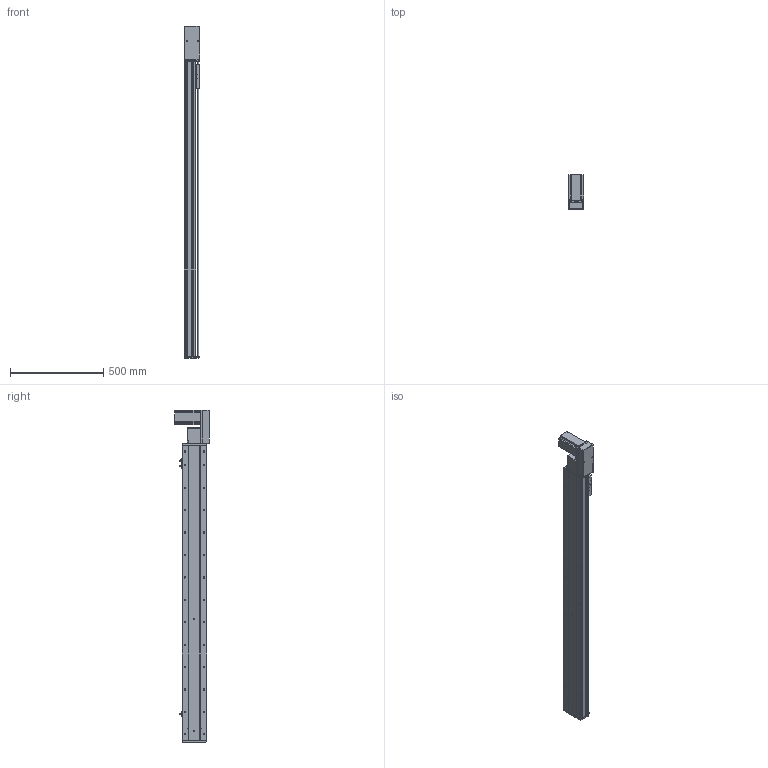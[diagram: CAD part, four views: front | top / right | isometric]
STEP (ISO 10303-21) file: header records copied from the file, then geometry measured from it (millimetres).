
FILE_DESCRIPTION (( 'STEP AP214' ), '1' );
FILE_NAME ('KSD130B-S1350-MLB-CM.STEP', '2019-11-14T03:01:31', ( '微软用户' ), ( '微软中国' ), 'SwSTEP 2.0', 'SolidWorks 2014', '' );
FILE_SCHEMA (( 'AUTOMOTIVE_DESIGN' ));
Length unit declared in the file: millimetre
Products named in the file (12): 台达ECMA－C20807AS伺服电机; 130宽模组保护罩上下左右折-同步带; 130宽模组马达安装板连板左右折同步带; 覜茼え100遵圉猾敕; U倰嫖萇EEㄜSX672; 130宽盖板半封闭同步带-1350行程; 130宽马达安装板同步带左-改; 130宽马达安装板同步带半封闭; 130宽同步带安装座半封闭; 130宽端盖同步带半封闭; 130宽底板半封闭同步带-1350行程; KSD130B-S1350-MLB-CM
Assembly tree (13 placements, depth 2):
  KSD130B-S1350-MLB-CM
    130宽底板半封闭同步带-1350行程
    130宽端盖同步带半封闭
    130宽同步带安装座半封闭
    130宽马达安装板同步带半封闭
    130宽马达安装板同步带左-改
    130宽盖板半封闭同步带-1350行程
    U倰嫖萇EEㄜSX672  x3
    覜茼え100遵圉猾敕
    130宽模组马达安装板连板左右折同步带
    130宽模组保护罩上下左右折-同步带
    台达ECMA－C20807AS伺服电机
Bounding box: 82.5 x 184.8 x 1777 mm (x, y, z)
Volume: 5931935 mm3; surface area: 1651643.3 mm2
Topology: 14 solids, 14 shells, 1629 faces, 4701 edges, 2991 vertices
Faces by surface type: cylinder 792, plane 638, cone 199
Entity records: 54647 total; most frequent: CARTESIAN_POINT 10388, DIRECTION 8267, ORIENTED_EDGE 7990, EDGE_CURVE 3995, AXIS2_PLACEMENT_3D 3030, VERTEX_POINT 2615, VECTOR 2207, LINE 2207
